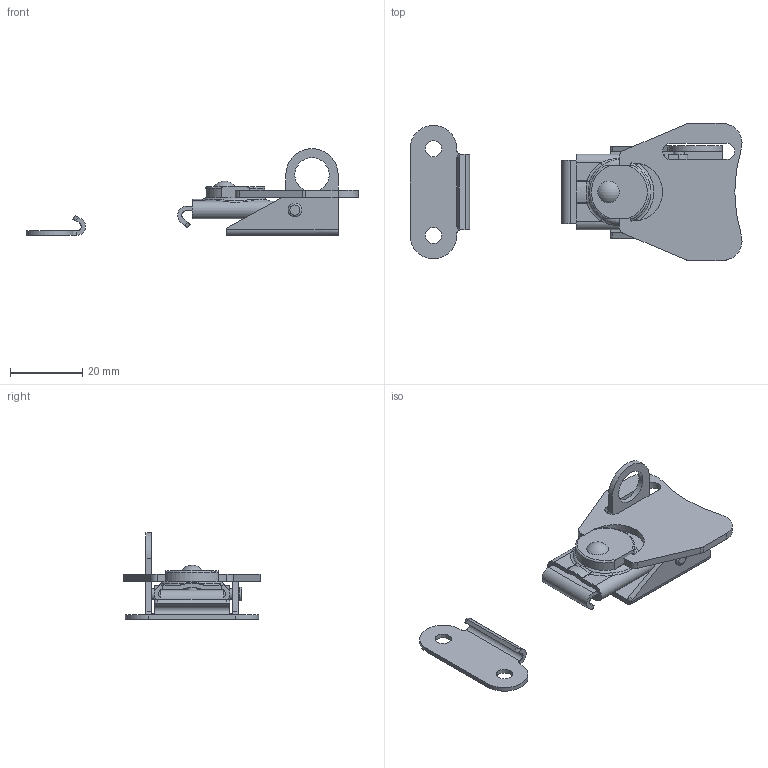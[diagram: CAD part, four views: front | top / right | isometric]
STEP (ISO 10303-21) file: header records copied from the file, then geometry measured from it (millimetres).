
FILE_DESCRIPTION(/* description */ (''),/* implementation_level */ '2;1');
FILE_NAME(/* name */ '\\NAS\db20\C-M26\DR_C-M26.stp',/* time_stamp */ '2017-09-04T15:17:34+09:00',/* author */ ('user'),/* organization */ (''),/* preprocessor_version */ 'ST-DEVELOPER v15.6',/* originating_system */ 'Autodesk Inventor 2015',/* authorisation */ '');
FILE_SCHEMA (('AUTOMOTIVE_DESIGN { 1 0 10303 214 3 1 1 }'));
Length unit declared in the file: millimetre
Products named in the file (6): DR_C-M26-B; DR_C-M26-C; DR_C-M26-CA; DR_C-M26-H; DR_C-M26-P; DR_C-M26
Bounding box: 91.99 x 38 x 24 mm (x, y, z)
Volume: 7203.5 mm3; surface area: 10853.3 mm2
Topology: 6 solids, 6 shells, 163 faces, 407 edges, 259 vertices
Faces by surface type: plane 78, cylinder 61, bspline 13, torus 8, sphere 3
Full cylindrical faces by diameter (mm): 3 x3, 3.8 x1, 4.5 x4, 8 x1, 9.5 x1
Entity records: 5366 total; most frequent: CARTESIAN_POINT 1365, DIRECTION 817, ORIENTED_EDGE 774, EDGE_CURVE 387, AXIS2_PLACEMENT_3D 305, VERTEX_POINT 254, LINE 207, VECTOR 207
